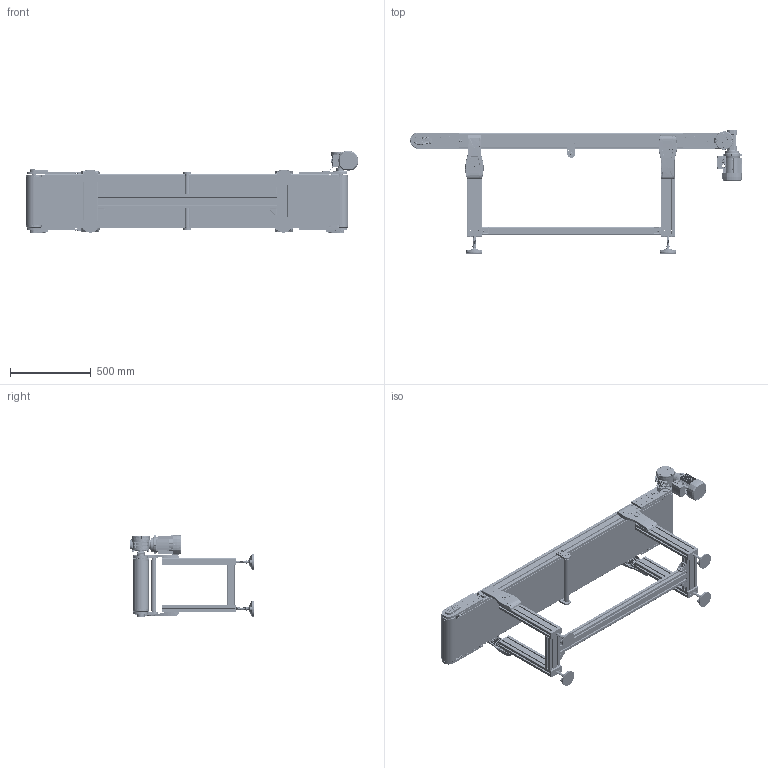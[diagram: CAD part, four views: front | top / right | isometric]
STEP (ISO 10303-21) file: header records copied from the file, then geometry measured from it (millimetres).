
FILE_DESCRIPTION (( 'STEP AP203' ), '1' );
FILE_NAME ('NASTRO_RETTILINEO_TAPPETO.step', '2026-04-29T06:09:14', ( 'Utente Windows' ), ( '' ), 'SwSTEP 2.0', 'SolidWorks 2024', '' );
FILE_SCHEMA (( 'CONFIG_CONTROL_DESIGN' ));
Length unit declared in the file: millimetre
Products named in the file (69): CHIAVETTE_A 8x7x20 UNI 6604-69; 084.802.034_084.802.034; TRAVERSA_95_Default<A macchina>; VITE_DADO_M5X12; 084.803.017; 084.802.060_Default<A macchina>; 084.802.019_084.802.019; RULLO_REGGITAPPETO; 084.405.001; RONDELLE FASCIA LARGA UNI 6593_8.4x32 UNI 6593; PIEDE_95; 084.302.000 DADI ALUSIC 13x13-1_084.302.007; NASTRO_RETTILINEO_TAPPETO; VITI TSEI UNI 5933_M4x12 UNI 5933; 084.302.060; 2010.000.072; 084.812.003; 084.201.019; 2010.000.074; VITI TE UNI 5739_M6x12 UNI 5739; LAMIERA_STANDARD; 084.301.000 VITI ALUSIC_084.301.003; RONDELLE UNI 6592_8.4x17 UNI 6592; CH05P_DX; BLOCCO_TRAINO_95_STANDARD_49_DX_CON TENDINASTRO E SENZA CARTER; 084.812.002; 084.808.002_084.808.002; 084.802.067_Default<A macchina>; 30UNI7435; VITI TE UNI 5739_M8x12 UNI 5739; VITI TCEI UNI 5931_M6x12 UNI 5931; 084.802.028; BLOCCO_PERNO_95_49; 084.802.017_084.802.017; 084.302.000 DADI ALUSIC 13x13-1_084.302.004; 084.802.071; 084.303.001; TAPPETO_STANDARD; VITI TE UNI 5739_M8x16 UNI 5739; CHIAVETTE_A 8x7x70 UNI 6604-69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
Assembly tree (199 placements, depth 4):
  NASTRO_RETTILINEO_TAPPETO
    TAPPETO_STANDARD
    TELAIO_95_STANDARD_Default<A macchina>
    LAMIERA_STANDARD
    RULLO_95_Default<A macchina>  x2
    BLOCCO_PERNO_95_49
      084.812.002
      084.810.003
      CHIAVETTE_A 8x7x70 UNI 6604-69
      CHIAVETTE_A 8x7x20 UNI 6604-69
      RONDELLE FASCIA LARGA UNI 6593_8.4x32 UNI 6593
      VITI TE UNI 5739_M8x16 UNI 5739
      25UNI7435
      30UNI7435
    BLOCCO_TRAINO_95_STANDARD_49_DX_CON TENDINASTRO E SENZA CARTER
      084.808.003_084.808.003
      084.302.060  x2
      084.802.034_084.802.034
      084.301.000 VITI ALUSIC_084.301.003  x6
      084.802.067_Default<A macchina>
      VITI TCEI UNI 5931_M4x25 UNI 5931  x2
      BLOCCO_BRACCIO_CH05P_CH05P
        084.808.013
        084.802.062
        084.802.060_Default<A macchina>
        VITI TE UNI 5739_M8x12 UNI 5739  x4
        VITI TE UNI 5739_M6x12 UNI 5739  x4
        084.803.017
        VITI TCEI UNI 5931_M6x12 UNI 5931  x4
    BLOCCO_PERNO_95_RINVIO  x3
      084.812.003
      084.810.003
      30UNI7435
    BLOCCO_TRAINO_95_STANDARD_CON TENDINASTRO E CARTER
      084.808.002_084.808.002
      084.302.060  x2
      084.802.019_084.802.019
      084.301.000 VITI ALUSIC_084.301.003  x6
      VITI TCEI UNI 5931_M4x25 UNI 5931  x2
      084.802.071
      084.802.068
      VITI TSEI UNI 5933_M4x12 UNI 5933  x2
    BLOCCO_RINVIO_95_STANDARD_CON TENDINASTRO E CARTER  x2
      084.808.002_084.808.002
      084.803.003
      084.302.060
      084.802.019_084.802.019
      VITI TSEI UNI 5933_M4x12 UNI 5933
      084.302.000 DADI ALUSIC 13x13-1_084.302.004
      084.301.000 VITI ALUSIC_084.301.003
      084.802.071
    GAMBE_D95_Default<A macchina>  x2
    FLANGIA_GAMBA_95_CON GIUNTI
      2010.000.072
        2010.000.072_L_Default<A macchina>
        2010.000.073
        2010.000.074
      084.302.000 DADI ALUSIC 13x13-1_084.302.004  x6
      RONDELLE UNI 6592_8.4x17 UNI 6592  x7
      084.301.000 VITI ALUSIC1_084.301.003  x7
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Bounding box: 2059.8 x 763.5 x 508.7 mm (x, y, z)
Volume: 19396329.2 mm3; surface area: 13372065.9 mm2
Topology: 343 solids, 348 shells, 17616 faces, 45902 edges, 29258 vertices
Faces by surface type: plane 7605, cylinder 4906, bspline 2159, cone 1640, torus 1170, sphere 136
Entity records: 308746 total; most frequent: CARTESIAN_POINT 122790, ORIENTED_EDGE 38790, DIRECTION 34071, EDGE_CURVE 19395, VERTEX_POINT 12426, AXIS2_PLACEMENT_3D 11946, VECTOR 10179, LINE 10179
